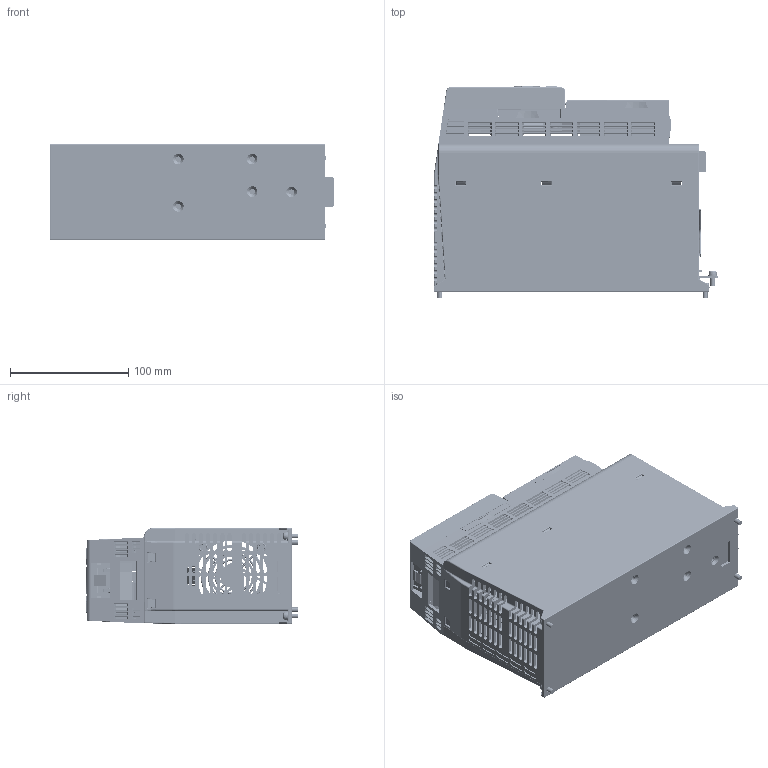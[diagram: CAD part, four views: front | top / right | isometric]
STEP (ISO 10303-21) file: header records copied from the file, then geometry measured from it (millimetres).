
FILE_DESCRIPTION (( 'STEP AP214' ), '1' );
FILE_NAME ('通用型5.5kw总装配体20221207.STEP', '2022-12-07T08:12:19', ( '微软用户' ), ( '微软中国' ), 'SwSTEP 2.0', 'SolidWorks 2018', '' );
FILE_SCHEMA (( 'AUTOMOTIVE_DESIGN' ));
Length unit declared in the file: millimetre
Products named in the file (47): 奻褲极20200424; 60x60x25的散热风扇组件20200424; 偌瑩瑩攫郪璃-led-2-20190506; 諷秶啣郪璃4-20190309-201903192019032820191126; M3X3mm腔肣蹟譫-耀撿-20190313-201903192019032820191126; 60x60x25的散热风扇钢丝网20200424; 俋褲1-led-2-20190506; 傷赽啣蚾饜极-2019110920200424; 偌瑩諷秶啣20191126; EMC 5-01-7.62-01傷赽20200424; 寡蝶-20200107; 菁啣-20190311-201903192019032820191126; 5.5kw-傷赽啣20200424; LED囀褲俋諶-20190506; 寡蝶-20190309-201903192019032820191126; 諷秶耀輸-2019102420200424; LED偌瑩諷秶啣-LCD-2-20190506; 阨儒芛-耀撿-20190313-201903192019032820191126; 模具最新更改-卢工-201803182019032820191126; 泂え厙諳-20190506; JIANPANZUOGAI_4-2018031820190328-00220191126; M3X3mm腔肣蹟譫-耀撿-led-2-20190506; 囀褲1-201903192019032820191126_湮そ; 菁啣-led-2-20190506; 俋褲1-201903192019032820191126; PLTBH1.5-3.5-4PIN20191126; 阨儒芛-耀撿-led-2-20190506; JIANPANZUOGAI_4-201803182019032820191126; 樟萇ん20191126; 眄И沺啣; 菁釱201950620191126; 諉華鍼踢璃; ANNIUZUOKE_26-201803182019032820191126; 菁啣-201903222019032820191126; m4x6籵謂揤穩蹟譫翐-0309; 偌瑩瑩攫郪璃-201903192019032820191126; 諉華啣; 籵蚚倰5.5kw軞蚾饜极20221207; LED偌瑩諷秶啣20191126; 葡臏郈啣M4XH12肣蹟翐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
Assembly tree (84 placements, depth 5):
  籵蚚倰5.5kw軞蚾饜极20221207
    諷秶耀輸-2019102420200424
      模具最新更改-卢工-201803182019032820191126
        ANNIUZUOKE_26-201803182019032820191126
        JIANPANZUOGAI_4-201803182019032820191126
        偌瑩瑩攫郪璃-201903192019032820191126
          俋褲1-201903192019032820191126
          囀褲1-201903192019032820191126_湮そ
          阨儒芛-耀撿-20190313-201903192019032820191126
          寡蝶-20190309-201903192019032820191126
          菁啣-20190311-201903192019032820191126
          偌瑩諷秶啣20191126
          M3X3mm腔肣蹟譫-耀撿-20190313-201903192019032820191126  x2
          諷秶啣郪璃4-20190309-201903192019032820191126
          pan head cross recess screw_iso_ISO 7045 - M2 x 8 - Z - 8N  x4
          黃蕾そ-20190411920191126
          Óî³¿ LCDÆÁ20191126
          LED偌瑩諷秶啣20191126
        菁啣-201903222019032820191126
        菁釱201950620191126
        樟萇ん20191126  x2
        PLTBH1.5-3.5-4PIN20191126  x2
        JIANPANZUOGAI_4-2018031820190328-00220191126
    傷赽啣蚾饜极-2019110920200424  x2
      5.5kw-傷赽啣20200424
      EMC 5-01-7.62-01傷赽20200424
    60x60x25的散热风扇组件20200424
      60x60x25的散热风扇钢丝网20200424
    奻褲极20200424
    狟褲极20200424
    瑞圮欶20200424
    M4X12的带弹垫盘头螺钉20200424  x6
    葡臏郈啣M4XH12肣蹟翐  x3
    諉華鍼踢璃
      諉華啣
      m4x6籵謂揤穩蹟譫翐-0309
    眄И沺啣
    偌瑩瑩攫郪璃-led-2-20190506
      阨儒芛-耀撿-led-2-20190506
      菁啣-led-2-20190506
      M3X3mm腔肣蹟譫-耀撿-led-2-20190506  x2
      泂え厙諳-20190506
      pan head cross recess screw_iso_ISO 7045 - M2 x 8 - Z - 8N  x4
      LED偌瑩諷秶啣-LCD-2-20190506
      LED囀褲俋諶-20190506
      寡蝶-20200107
    偌瑩瑩攫郪璃-led-2-20190506
      俋褲1-led-2-20190506
      阨儒芛-耀撿-led-2-20190506
      菁啣-led-2-20190506
      M3X3mm腔肣蹟譫-耀撿-led-2-20190506  x2
      泂え厙諳-20190506
      pan head cross recess screw_iso_ISO 7045 - M2 x 8 - Z - 8N  x4
      LED偌瑩諷秶啣-LCD-2-20190506
      LED囀褲俋諶-20190506
Bounding box: 240.33 x 178.9 x 81 mm (x, y, z)
Volume: 688796.6 mm3; surface area: 733190.2 mm2
Topology: 91 solids, 180 shells, 10117 faces, 27796 edges, 18505 vertices
Faces by surface type: plane 6518, cylinder 2320, bspline 715, torus 251, cone 191, sphere 122
Entity records: 506059 total; most frequent: CARTESIAN_POINT 305272, ORIENTED_EDGE 42954, DIRECTION 36445, EDGE_CURVE 21661, VECTOR 15365, LINE 15365, VERTEX_POINT 14576, AXIS2_PLACEMENT_3D 10540
